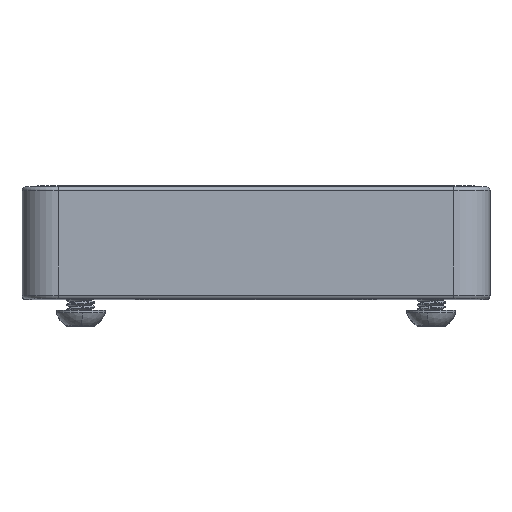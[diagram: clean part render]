
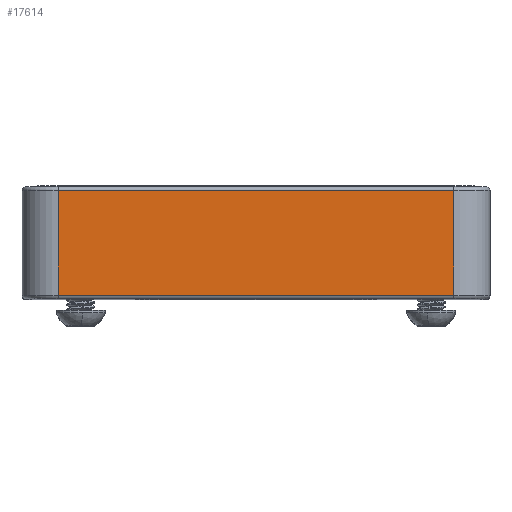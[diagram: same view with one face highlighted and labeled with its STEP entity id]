
A CAD part, top view. The second image highlights one B-rep face of the part: STEP entity #17614.
In plain terms, the highlighted planar face has unit normal (0, 0, 1).
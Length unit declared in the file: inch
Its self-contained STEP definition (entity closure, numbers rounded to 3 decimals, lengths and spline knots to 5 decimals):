
#1666 = FACE_OUTER_BOUND ( 'NONE', #14646, .T. ) ;
#1728 = AXIS2_PLACEMENT_3D ( 'NONE', #13446, #24265, #12733 ) ;
#2349 = CARTESIAN_POINT ( 'NONE',  ( 1.6655, 0.032, 1.9705 ) ) ;
#2589 = EDGE_CURVE ( 'NONE', #22719, #6479, #12797, .T. ) ;
#5744 = VERTEX_POINT ( 'NONE', #2349 ) ;
#6479 = VERTEX_POINT ( 'NONE', #15770 ) ;
#6546 = CARTESIAN_POINT ( 'NONE',  ( 1.6655, 0.913, 1.9705 ) ) ;
#6847 = LINE ( 'NONE', #34486, #17636 ) ;
#7387 = DIRECTION ( 'NONE',  ( 0., -1., 0. ) ) ;
#7803 = DIRECTION ( 'NONE',  ( 1., 0., 0. ) ) ;
#8264 = VERTEX_POINT ( 'NONE', #26804 ) ;
#8379 = VECTOR ( 'NONE', #12471, 39.37008 ) ;
#9534 = EDGE_CURVE ( 'NONE', #8264, #5744, #24371, .T. ) ;
#11345 = VECTOR ( 'NONE', #28595, 39.37008 ) ;
#12471 = DIRECTION ( 'NONE',  ( -1., 0., 0. ) ) ;
#12733 = DIRECTION ( 'NONE',  ( -1., 0., 0. ) ) ;
#12797 = LINE ( 'NONE', #15341, #8379 ) ;
#13268 = PLANE ( 'NONE',  #1728 ) ;
#13446 = CARTESIAN_POINT ( 'NONE',  ( 0., 6.95586, 1.9705 ) ) ;
#13684 = ORIENTED_EDGE ( 'NONE', *, *, #9534, .T. ) ;
#14646 = EDGE_LOOP ( 'NONE', ( #17853, #13684, #19150, #28691 ) ) ;
#15341 = CARTESIAN_POINT ( 'NONE',  ( -1.6655, 0.913, 1.9705 ) ) ;
#15770 = CARTESIAN_POINT ( 'NONE',  ( -1.6655, 0.913, 1.9705 ) ) ;
#17614 = ADVANCED_FACE ( 'NONE', ( #1666 ), #13268, .F. ) ;
#17636 = VECTOR ( 'NONE', #7387, 39.37008 ) ;
#17853 = ORIENTED_EDGE ( 'NONE', *, *, #23898, .T. ) ;
#19150 = ORIENTED_EDGE ( 'NONE', *, *, #27143, .F. ) ;
#19231 = CARTESIAN_POINT ( 'NONE',  ( 0., 0.032, 1.9705 ) ) ;
#20199 = CARTESIAN_POINT ( 'NONE',  ( -1.6655, 6.95586, 1.9705 ) ) ;
#22719 = VERTEX_POINT ( 'NONE', #6546 ) ;
#22942 = LINE ( 'NONE', #20199, #11345 ) ;
#23898 = EDGE_CURVE ( 'NONE', #6479, #8264, #22942, .T. ) ;
#24265 = DIRECTION ( 'NONE',  ( 0., 0., -1. ) ) ;
#24371 = LINE ( 'NONE', #19231, #25816 ) ;
#25816 = VECTOR ( 'NONE', #7803, 39.37008 ) ;
#26804 = CARTESIAN_POINT ( 'NONE',  ( -1.6655, 0.032, 1.9705 ) ) ;
#27143 = EDGE_CURVE ( 'NONE', #22719, #5744, #6847, .T. ) ;
#28595 = DIRECTION ( 'NONE',  ( 0., -1., 0. ) ) ;
#28691 = ORIENTED_EDGE ( 'NONE', *, *, #2589, .T. ) ;
#34486 = CARTESIAN_POINT ( 'NONE',  ( 1.6655, 6.95586, 1.9705 ) ) ;
